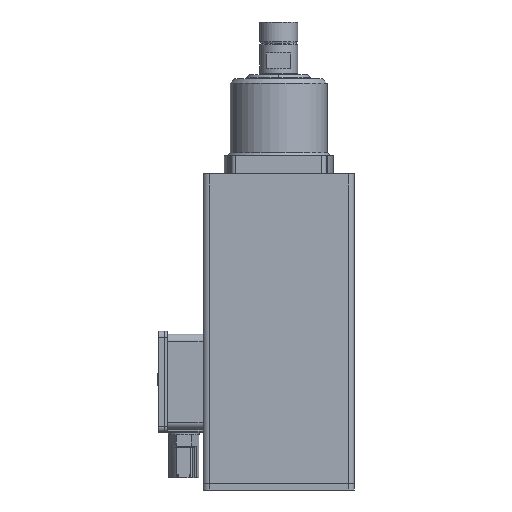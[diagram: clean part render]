
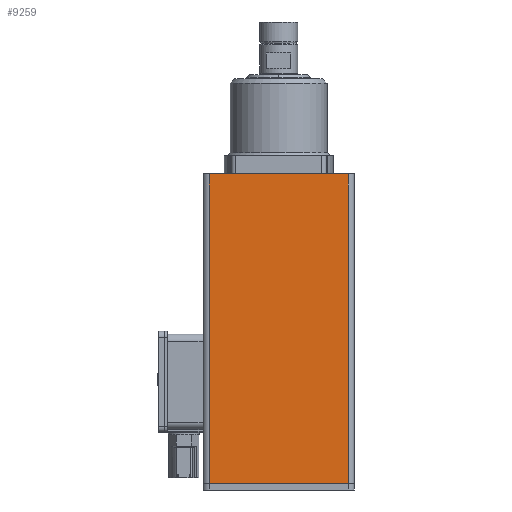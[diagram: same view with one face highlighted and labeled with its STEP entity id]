
A CAD part, left-side view. The second image highlights one B-rep face of the part: STEP entity #9259.
In plain terms, the highlighted planar face has unit normal (-1, 0, 0).
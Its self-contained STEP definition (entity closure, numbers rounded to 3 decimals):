
#901 = VECTOR ( 'NONE', #4148, 1000. ) ;
#2501 = AXIS2_PLACEMENT_3D ( 'NONE', #15451, #13773, #12106 ) ;
#3078 = VERTEX_POINT ( 'NONE', #15892 ) ;
#3560 = ORIENTED_EDGE ( 'NONE', *, *, #14342, .T. ) ;
#3642 = DIRECTION ( 'NONE',  ( 0., -1., 0. ) ) ;
#4054 = ORIENTED_EDGE ( 'NONE', *, *, #16494, .F. ) ;
#4148 = DIRECTION ( 'NONE',  ( 0., 0., 1. ) ) ;
#4907 = LINE ( 'NONE', #14662, #13342 ) ;
#4935 = VECTOR ( 'NONE', #12128, 1000. ) ;
#5162 = ORIENTED_EDGE ( 'NONE', *, *, #12700, .F. ) ;
#5242 = VERTEX_POINT ( 'NONE', #12975 ) ;
#5332 = CARTESIAN_POINT ( 'NONE',  ( -37.5, -46., -205. ) ) ;
#5583 = ORIENTED_EDGE ( 'NONE', *, *, #8619, .T. ) ;
#5726 = PLANE ( 'NONE',  #2501 ) ;
#5854 = CARTESIAN_POINT ( 'NONE',  ( -37.5, -46., -205. ) ) ;
#5900 = CARTESIAN_POINT ( 'NONE',  ( -37.5, -46., 0. ) ) ;
#6703 = VECTOR ( 'NONE', #3642, 1000. ) ;
#7035 = LINE ( 'NONE', #5332, #6703 ) ;
#7521 = LINE ( 'NONE', #5854, #901 ) ;
#8619 = EDGE_CURVE ( 'NONE', #14219, #12877, #7521, .T. ) ;
#9102 = LINE ( 'NONE', #13794, #4935 ) ;
#9259 = ADVANCED_FACE ( 'NONE', ( #16051 ), #5726, .T. ) ;
#12106 = DIRECTION ( 'NONE',  ( 0., -1., 0. ) ) ;
#12128 = DIRECTION ( 'NONE',  ( 0., -1., 0. ) ) ;
#12700 = EDGE_CURVE ( 'NONE', #5242, #3078, #4907, .T. ) ;
#12877 = VERTEX_POINT ( 'NONE', #5900 ) ;
#12905 = EDGE_LOOP ( 'NONE', ( #4054, #5162, #3560, #5583 ) ) ;
#12965 = DIRECTION ( 'NONE',  ( 0., 0., 1. ) ) ;
#12975 = CARTESIAN_POINT ( 'NONE',  ( -37.5, 46., -205. ) ) ;
#13342 = VECTOR ( 'NONE', #12965, 1000. ) ;
#13773 = DIRECTION ( 'NONE',  ( -1., 0., 0. ) ) ;
#13794 = CARTESIAN_POINT ( 'NONE',  ( -37.5, -46., 0. ) ) ;
#14219 = VERTEX_POINT ( 'NONE', #16196 ) ;
#14342 = EDGE_CURVE ( 'NONE', #5242, #14219, #7035, .T. ) ;
#14662 = CARTESIAN_POINT ( 'NONE',  ( -37.5, 46., -205. ) ) ;
#15451 = CARTESIAN_POINT ( 'NONE',  ( -37.5, -46., -205. ) ) ;
#15892 = CARTESIAN_POINT ( 'NONE',  ( -37.5, 46., 0. ) ) ;
#16051 = FACE_OUTER_BOUND ( 'NONE', #12905, .T. ) ;
#16196 = CARTESIAN_POINT ( 'NONE',  ( -37.5, -46., -205. ) ) ;
#16494 = EDGE_CURVE ( 'NONE', #3078, #12877, #9102, .T. ) ;
